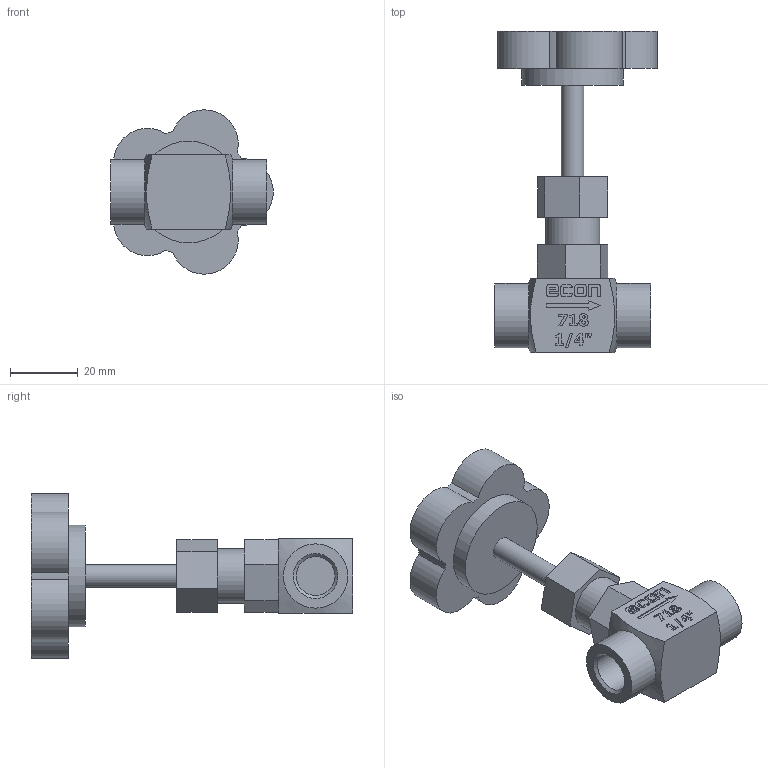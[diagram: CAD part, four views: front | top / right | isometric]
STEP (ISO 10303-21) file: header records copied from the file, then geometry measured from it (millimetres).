
FILE_DESCRIPTION(/* description */ ('Eriks item no: 11811610'),/* implementation_level */ '2;1');
FILE_NAME(/* name */ 'L:\DATA\ENG\Inventor\Econ 3D modellen\naaldafsluiter\718\718-008-PN100.stp',/* time_stamp */ '2024-02-12T09:12:50+01:00',/* author */ ('roger.thijssen'),/* organization */ (''),/* preprocessor_version */ 'ST-DEVELOPER v18',/* originating_system */ 'Autodesk Inventor 2020',/* authorisation */ '');
FILE_SCHEMA (('CONFIG_CONTROL_DESIGN'));
Length unit declared in the file: millimetre
Products named in the file (1): Needle valve, 718-008-PN100
Bounding box: 48 x 95 x 48.53 mm (x, y, z)
Volume: 42643.2 mm3; surface area: 13634.7 mm2
Topology: 1 solids, 1 shells, 212 faces, 558 edges, 376 vertices
Faces by surface type: plane 150, cylinder 30, bspline 27, cone 5
Full cylindrical faces by diameter (mm): 6.6 x1, 11.445 x2, 16 x1, 19 x2, 30 x1
Entity records: 7018 total; most frequent: CARTESIAN_POINT 1606, ORIENTED_EDGE 1116, DIRECTION 946, EDGE_CURVE 558, LINE 414, VECTOR 414, VERTEX_POINT 376, AXIS2_PLACEMENT_3D 266
